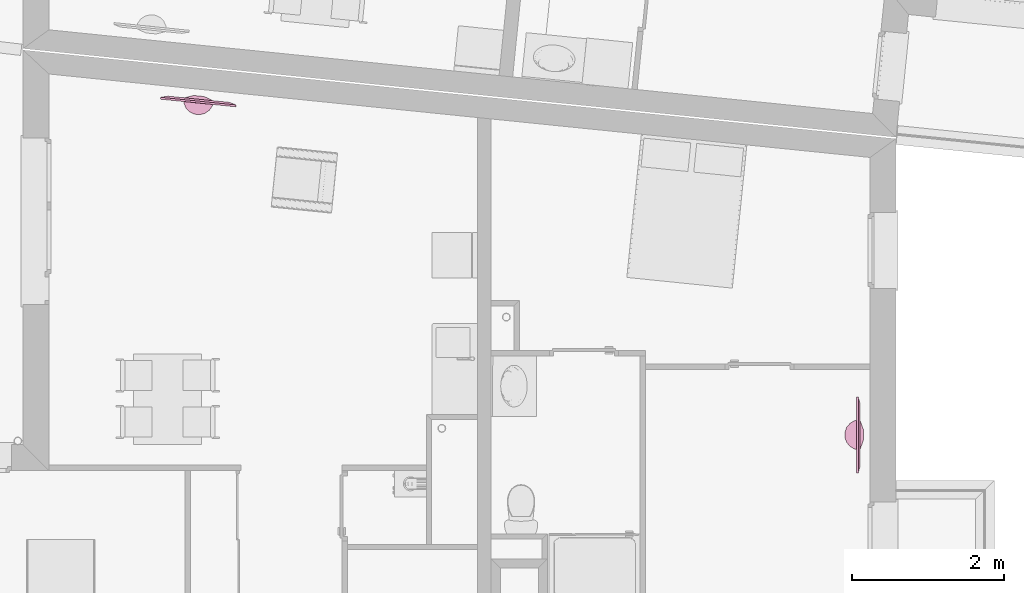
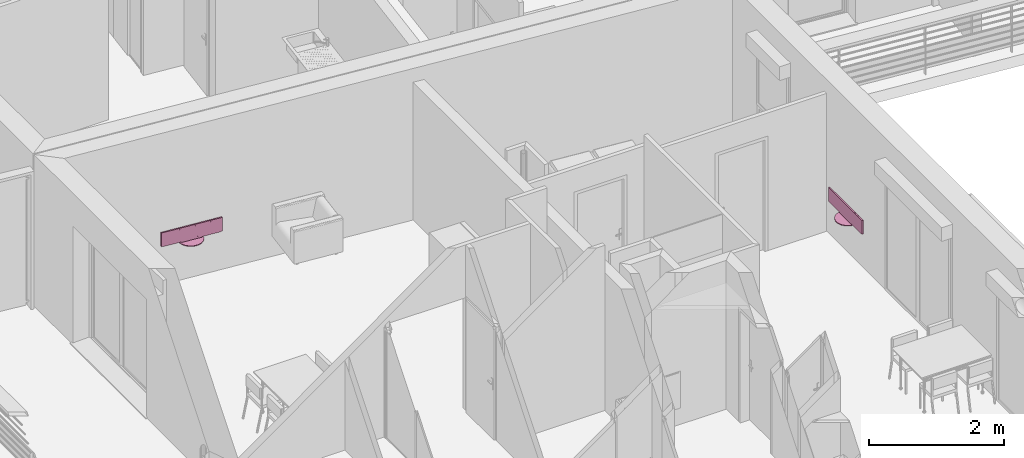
# One storey, part 125 of 164: 2 furnishings.
"""IFC2X3 building model written with IfcOpenShell, lengths in millimetres."""

from ifc_helpers import new_model, entity, si_unit, converted_unit, derived_unit, money_unit, direction, frame, origin_with_axes, place, context, subcontext, project, spatial, faceted_brep, source, transform, mapped, type_object, element, save


model = new_model("IFC2X3")

# Units and contexts
model_context = context("Model", 3, precision=0.01, world=origin_with_axes(), true_north=direction((0.0, 1.0)))
body_context = subcontext(model_context, "Body", "Model", "MODEL_VIEW")
ifc_project = project(units=[si_unit("LENGTHUNIT", "METRE", prefix="MILLI"), si_unit("AREAUNIT", "SQUARE_METRE"), si_unit("VOLUMEUNIT", "CUBIC_METRE"), converted_unit("PLANEANGLEUNIT", "DEGREE", entity("IfcPlaneAngleMeasure", 0.0174532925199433), si_unit("PLANEANGLEUNIT", "RADIAN"), dimensions=[0, 0, 0, 0, 0, 0, 0]), money_unit("USD"), converted_unit("TIMEUNIT", "Year", entity("IfcTimeMeasure", 31557600.0), si_unit("TIMEUNIT", "SECOND"), dimensions=[0, 0, 1, 0, 0, 0, 0]), si_unit("MASSUNIT", "GRAM", prefix="KILO"), si_unit("THERMODYNAMICTEMPERATUREUNIT", "DEGREE_CELSIUS"), si_unit("LUMINOUSINTENSITYUNIT", "LUMEN"), si_unit("ENERGYUNIT", "JOULE", prefix="MEGA"), derived_unit("THERMALCONDUCTANCEUNIT", [(si_unit("POWERUNIT", "WATT"), 1), (si_unit("LENGTHUNIT", "METRE"), -1), (si_unit("THERMODYNAMICTEMPERATUREUNIT", "KELVIN"), -1)]), derived_unit("SPECIFICHEATCAPACITYUNIT", [(si_unit("ENERGYUNIT", "JOULE"), 1), (si_unit("MASSUNIT", "GRAM", prefix="KILO"), -1), (si_unit("THERMODYNAMICTEMPERATUREUNIT", "KELVIN"), -1)]), derived_unit("MASSDENSITYUNIT", [(si_unit("MASSUNIT", "GRAM", prefix="KILO"), 1), (si_unit("VOLUMEUNIT", "CUBIC_METRE"), -1)])], contexts=[model_context])

# Site, building, storey
site_placement = place(None, origin_with_axes())
site = spatial("IfcSite", under=ifc_project, at=site_placement, Name="Site", CompositionType="ELEMENT")
building_placement = place(site_placement, origin_with_axes())
building = spatial("IfcBuilding", under=site, at=building_placement, Name="Bâtiment", CompositionType="ELEMENT")
storey_placement = place(building_placement, frame((0.0, 0.0, 5750.0), z_axis=(0.0, 0.0, 1.0), x_axis=(1.0, 0.0, 0.0)))
storey = spatial("IfcBuildingStorey", under=building, at=storey_placement, Name="Etage1", CompositionType="ELEMENT", Elevation=5750.0)

# Furnishings
furnishing_element_type = type_object("IfcFurnishingElementType", Name="Ecran TV plasma")
shared_shape = source(origin_with_axes(), body_context, "Body", "Brep", [
    faceted_brep([(300.0, 45.45454545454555, 0.0), (311.9952377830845, -22.76722074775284, 0.0), (311.9952377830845, -22.76722074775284, 12.72727272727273), (300.0, 45.45454545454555, 12.72727272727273), (300.362869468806, 45.66379498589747, 0.0), (430.8157560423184, 93.01588086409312, 0.0), (569.5967719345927, 92.94321528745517, 0.0), (700.0000000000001, 45.45454545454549, 0.0), (699.9923846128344, 43.70923835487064, 0.0), (687.402263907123, -24.40525330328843, 0.0), (652.3327960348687, -84.13989598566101, 0.0), (598.9906470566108, -128.3293772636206, 0.0), (533.7743345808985, -151.6730637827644, 0.0), (464.5067103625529, -151.3708248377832, 0.0), (399.4965906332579, -127.4589147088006, 0.0), (346.5420938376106, -82.80562387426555, 0.0), (346.5420938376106, -82.80562387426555, 12.72727272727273), (399.4965906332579, -127.4589147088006, 12.72727272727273), (464.5067103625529, -151.3708248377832, 12.72727272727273), (533.7743345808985, -151.6730637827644, 12.72727272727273), (598.9906470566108, -128.3293772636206, 12.72727272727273), (652.3327960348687, -84.13989598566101, 12.72727272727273), (687.402263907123, -24.40525330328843, 12.72727272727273), (699.9923846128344, 43.70923835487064, 12.72727272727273), (700.0000000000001, 45.45454545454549, 12.72727272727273), (569.5967719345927, 92.94321528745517, 12.72727272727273), (430.8157560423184, 93.01588086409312, 12.72727272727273), (300.362869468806, 45.66379498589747, 12.72727272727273)], [[[0, 1, 2, 3]], [[0, 4, 5, 6, 7, 8, 9, 10, 11, 12, 13, 14, 15, 1]], [[1, 15, 16, 2]], [[3, 2, 16, 17, 18, 19, 20, 21, 22, 23, 24, 25, 26, 27]], [[4, 0, 3, 27]], [[5, 4, 27, 26]], [[6, 5, 26, 25]], [[7, 6, 25, 24]], [[8, 7, 24, 23]], [[9, 8, 23, 22]], [[10, 9, 22, 21]], [[11, 10, 21, 20]], [[12, 11, 20, 19]], [[13, 12, 19, 18]], [[14, 13, 18, 17]], [[15, 14, 17, 16]]]),
    faceted_brep([(666.6666666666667, 2.500000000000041, 12.72727272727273), (666.6666666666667, 22.50000000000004, 12.72727272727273), (666.6666666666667, 22.50000000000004, 25.45454545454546), (666.6666666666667, 2.500000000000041, 25.45454545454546), (333.3333333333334, 2.500000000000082, 12.72727272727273), (333.3333333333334, 22.50000000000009, 12.72727272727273), (333.3333333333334, 22.50000000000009, 25.45454545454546), (333.3333333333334, 2.500000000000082, 25.45454545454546)], [[[0, 1, 2, 3]], [[0, 4, 5, 1]], [[1, 5, 6, 2]], [[3, 2, 6, 7]], [[4, 0, 3, 7]], [[5, 4, 7, 6]]]),
    faceted_brep([(62.5, -0.2539999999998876, 65.45454545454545), (62.5, -0.2539999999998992, 254.5454545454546), (62.5, 0.0, 254.5454545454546), (62.5, 0.0, 65.45454545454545), (937.5, -0.2539999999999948, 65.45454545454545), (937.5, -0.2540000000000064, 254.5454545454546), (937.5, 0.0, 254.5454545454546), (937.5, 0.0, 65.45454545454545)], [[[0, 1, 2, 3]], [[0, 4, 5, 1]], [[1, 5, 6, 2]], [[3, 2, 6, 7]], [[4, 0, 3, 7]], [[5, 4, 7, 6]]]),
    faceted_brep([(937.5, 0.0, 25.45454545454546), (1000.0, 0.0, 31.81818181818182), (1000.0, 0.0, 280.0), (0.0, 0.0, 280.0), (0.0, 0.0, 31.81818181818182), (62.5, 0.0, 25.45454545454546), (937.5000003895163, 25.00000000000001, 25.4545450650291), (1000.000000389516, 25.0, 31.81818187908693), (1000.000000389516, 24.99999999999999, 279.9999999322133), (3.895163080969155e-07, 25.00000000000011, 279.9999999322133), (3.895163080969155e-07, 25.00000000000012, 31.81818187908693), (62.50000038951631, 25.00000000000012, 25.4545450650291), (934.156616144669, 42.64268163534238, 91.29792930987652), (906.6987288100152, 50.00000037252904, 118.7558166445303), (906.6987288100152, 50.00000037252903, 186.6987283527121), (93.30127196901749, 50.00000037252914, 186.6987283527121), (93.30127196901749, 50.00000037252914, 118.7558166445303), (65.84338463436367, 42.64268163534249, 91.29792930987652)], [[[0, 1, 2, 3, 4, 5]], [[1, 0, 6, 7]], [[2, 1, 7, 8]], [[3, 2, 8, 9]], [[4, 3, 9, 10]], [[5, 4, 10, 11]], [[0, 5, 11, 6]], [[7, 6, 12]], [[8, 7, 12, 13, 14]], [[9, 8, 14, 15]], [[10, 9, 15, 16, 17]], [[11, 10, 17]], [[6, 11, 17, 16, 13, 12]], [[14, 13, 16, 15]]]),
    faceted_brep([(500.0, -0.7937499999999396, 39.45454545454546), (490.0, -0.7937499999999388, 46.45454545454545), (490.0, 0.0, 46.45454545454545), (500.0, 0.0, 39.45454545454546), (510.0, -0.7937499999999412, 46.45454545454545), (600.0, -0.7937499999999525, 52.18181818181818), (400.0, -0.7937499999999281, 52.18181818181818), (400.0, 0.0, 52.18181818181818), (600.0, 0.0, 52.18181818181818), (510.0, 0.0, 46.45454545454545)], [[[0, 1, 2, 3]], [[0, 4, 5, 6, 1]], [[1, 6, 7, 2]], [[3, 2, 7, 8, 9]], [[4, 0, 3, 9]], [[5, 4, 9, 8]], [[6, 5, 8, 7]]]),
    faceted_brep([(866.6666666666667, 10.0, 280.0), (933.3333333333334, 9.999999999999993, 280.0), (933.3333333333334, 9.999999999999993, 281.5875), (866.6666666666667, 10.0, 281.5875), (866.6666666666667, 16.25, 280.0), (933.3333333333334, 16.24999999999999, 280.0), (933.3333333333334, 16.24999999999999, 281.5875), (866.6666666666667, 16.25, 281.5875)], [[[0, 1, 2, 3]], [[1, 0, 4, 5]], [[2, 1, 5, 6]], [[3, 2, 6, 7]], [[0, 3, 7, 4]], [[5, 4, 7, 6]]]),
    faceted_brep([(795.2380952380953, 10.00000000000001, 280.0), (861.9047619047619, 10.0, 280.0), (861.9047619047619, 10.0, 281.5875), (795.2380952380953, 10.00000000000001, 281.5875), (795.2380952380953, 16.25000000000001, 280.0), (861.9047619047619, 16.25, 280.0), (861.9047619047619, 16.25, 281.5875), (795.2380952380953, 16.25000000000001, 281.5875)], [[[0, 1, 2, 3]], [[1, 0, 4, 5]], [[2, 1, 5, 6]], [[3, 2, 6, 7]], [[0, 3, 7, 4]], [[5, 4, 7, 6]]]),
    faceted_brep([(757.1428571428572, 10.00000000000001, 280.0), (790.4761904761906, 10.00000000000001, 280.0), (790.4761904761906, 10.00000000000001, 281.5875), (757.1428571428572, 10.00000000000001, 281.5875), (757.1428571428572, 16.25000000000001, 280.0), (790.4761904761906, 16.25000000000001, 280.0), (790.4761904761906, 16.25000000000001, 281.5875), (757.1428571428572, 16.25000000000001, 281.5875)], [[[0, 1, 2, 3]], [[1, 0, 4, 5]], [[2, 1, 5, 6]], [[3, 2, 6, 7]], [[0, 3, 7, 4]], [[5, 4, 7, 6]]]),
])
for number, where, z_axis, x_axis, name in (
    (1, (2229131.712569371, -625441.0998451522, 800.0000000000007), (0.0, 0.0, 1.0), (0.0005626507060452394, -0.999999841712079, 0.0), "Obj.-034"),
    (2, (2219948.195414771, -621510.3826508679, 800.0000000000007), (0.0, 0.0, 1.0), (0.9949326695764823, -0.1005434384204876, 0.0), "Obj.-034"),
):
    element("IfcFurnishingElement", number, at=place(storey_placement, frame(where, z_axis=z_axis, x_axis=x_axis)), inside=storey, type_object=furnishing_element_type, Name=name, context=body_context, shape_type="MappedRepresentation", body=[
        mapped(shared_shape, transform((0.0, 0.0, 0.0))),
    ])

save(model, "model.ifc")
